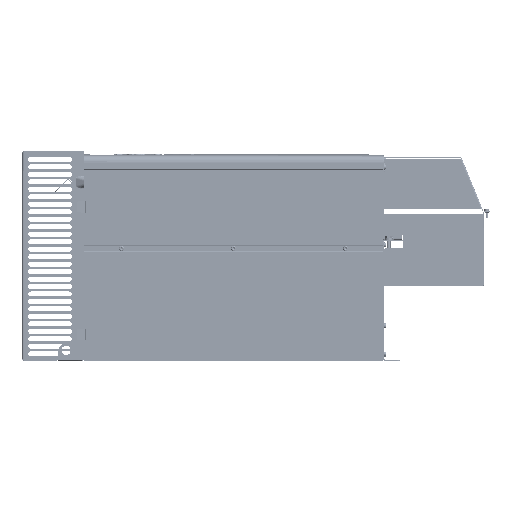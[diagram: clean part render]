
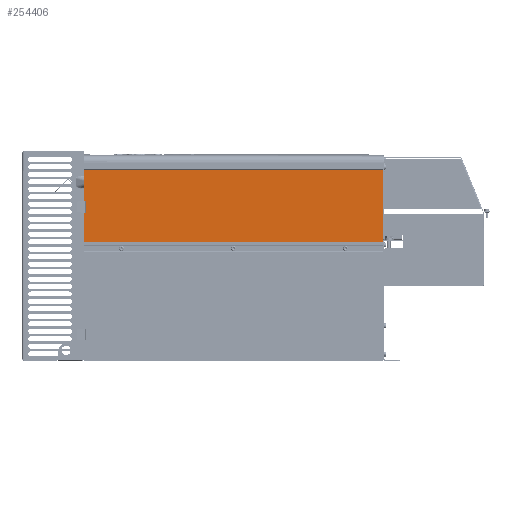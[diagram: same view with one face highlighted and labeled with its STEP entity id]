
A CAD part, left-side view. The second image highlights one B-rep face of the part: STEP entity #254406.
In plain terms, the highlighted planar face has unit normal (-1, 0, 0).
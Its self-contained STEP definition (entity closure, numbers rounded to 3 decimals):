
#3995=DIRECTION('',(0.,0.,-1.));
#3996=VECTOR('',#3995,12.);
#3997=CARTESIAN_POINT('',(-151.5,236.875,255.5));
#3998=LINE('',#3997,#3996);
#54386=DIRECTION('',(0.,-1.,0.));
#54387=VECTOR('',#54386,480.005);
#54388=CARTESIAN_POINT('',(-151.5,236.875,191.6));
#54389=LINE('',#54388,#54387);
#54393=DIRECTION('',(0.,0.,-1.));
#54394=VECTOR('',#54393,51.9);
#54395=CARTESIAN_POINT('',(-151.5,236.875,243.5));
#54396=LINE('',#54395,#54394);
#54400=DIRECTION('',(0.,0.,-1.));
#54401=VECTOR('',#54400,51.5);
#54402=CARTESIAN_POINT('',(-151.5,236.875,307.));
#54403=LINE('',#54402,#54401);
#54407=DIRECTION('',(0.,1.,0.));
#54408=VECTOR('',#54407,480.005);
#54409=CARTESIAN_POINT('',(-151.5,-243.13,307.));
#54410=LINE('',#54409,#54408);
#54414=DIRECTION('',(0.,0.,-1.));
#54415=VECTOR('',#54414,112.5);
#54416=CARTESIAN_POINT('',(-151.5,-243.13,307.));
#54417=LINE('',#54416,#54415);
#54421=DIRECTION('',(0.,0.,-1.));
#54422=VECTOR('',#54421,0.1);
#54423=CARTESIAN_POINT('',(-151.5,-243.13,191.7));
#54424=LINE('',#54423,#54422);
#58225=DIRECTION('',(0.,0.,1.));
#58226=VECTOR('',#58225,2.8);
#58227=CARTESIAN_POINT('',(-151.5,-243.13,191.7));
#58228=LINE('',#58227,#58226);
#186987=CARTESIAN_POINT('',(-151.5,236.875,243.5));
#186988=VERTEX_POINT('',#186987);
#187033=CARTESIAN_POINT('',(-151.5,236.875,255.5));
#187034=VERTEX_POINT('',#187033);
#187678=CARTESIAN_POINT('',(-151.5,-243.13,194.5));
#187680=VERTEX_POINT('',#187678);
#190878=CARTESIAN_POINT('',(-151.5,-243.13,307.));
#190879=CARTESIAN_POINT('',(-151.5,236.875,307.));
#190880=VERTEX_POINT('',#190878);
#190881=VERTEX_POINT('',#190879);
#190886=CARTESIAN_POINT('',(-151.5,236.875,191.6));
#190887=CARTESIAN_POINT('',(-151.5,-243.13,191.6));
#190888=VERTEX_POINT('',#190886);
#190889=VERTEX_POINT('',#190887);
#201813=CARTESIAN_POINT('',(-151.5,-243.13,191.7));
#201815=VERTEX_POINT('',#201813);
#254387=CARTESIAN_POINT('',(-151.5,236.875,318.2));
#254388=DIRECTION('',(-1.,0.,0.));
#254389=DIRECTION('',(0.,0.,-1.));
#254390=AXIS2_PLACEMENT_3D('',#254387,#254388,#254389);
#254391=PLANE('',#254390);
#254393=ORIENTED_EDGE('',*,*,#254392,.F.);
#254394=ORIENTED_EDGE('',*,*,#227941,.F.);
#254395=ORIENTED_EDGE('',*,*,#205091,.F.);
#254396=ORIENTED_EDGE('',*,*,#228041,.F.);
#254398=ORIENTED_EDGE('',*,*,#254397,.F.);
#254400=ORIENTED_EDGE('',*,*,#254399,.T.);
#254402=ORIENTED_EDGE('',*,*,#254401,.F.);
#254403=ORIENTED_EDGE('',*,*,#214057,.T.);
#254404=EDGE_LOOP('',(#254393,#254394,#254395,#254396,#254398,#254400,#254402,
#254403));
#254405=FACE_OUTER_BOUND('',#254404,.F.);
#254406=ADVANCED_FACE('',(#254405),#254391,.T.);
#205091=EDGE_CURVE('',#187034,#186988,#3998,.T.);
#214057=EDGE_CURVE('',#201815,#190889,#54424,.T.);
#227941=EDGE_CURVE('',#186988,#190888,#54396,.T.);
#228041=EDGE_CURVE('',#190881,#187034,#54403,.T.);
#254392=EDGE_CURVE('',#190888,#190889,#54389,.T.);
#254397=EDGE_CURVE('',#190880,#190881,#54410,.T.);
#254399=EDGE_CURVE('',#190880,#187680,#54417,.T.);
#254401=EDGE_CURVE('',#201815,#187680,#58228,.T.);
